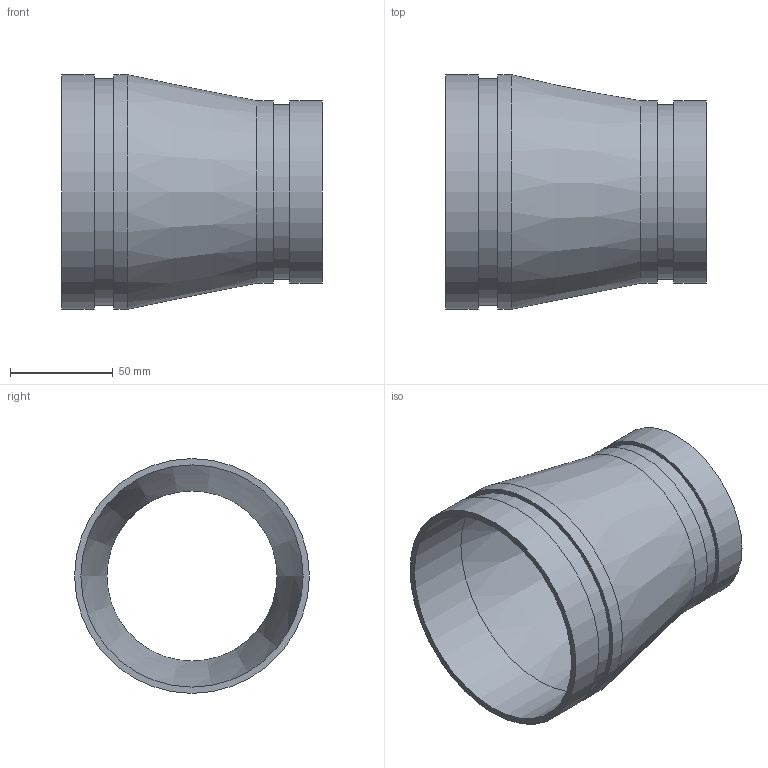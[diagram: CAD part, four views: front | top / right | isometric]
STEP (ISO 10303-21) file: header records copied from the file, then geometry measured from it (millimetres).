
FILE_DESCRIPTION(/* description */ ('VIC REDUCER CONCENTRIC No 450-SS','CAx-IF Rec.Pracs.---Representation and Presentation of Product Manufacturing Information (PMI)---4.0---2014-10-13'),/* implementation_level */ '2;1');
FILE_NAME(/* name */ 'C:\Users\kkamble\AppData\Roaming\Autodesk\ApplicationPlugins\Back Up\Victaulic_SS-OGS_Reducer Concentric_Sched 10S_No 450 SS (OGS)\Victaulic_SS-OGS_Reducer Concentric_Sched 10S_No 450 SS (OGS)_04.0x03.0 (100x80).stp',/* time_stamp */ '2020-09-08T12:33:10+05:00',/* author */ ('CORINNE GRAY'),/* organization */ ('Victaulic'),/* preprocessor_version */ 'ST-DEVELOPER v17.2',/* originating_system */ 'Autodesk Inventor 2019',/* authorisation */ '');
FILE_SCHEMA (('AP242_MANAGED_MODEL_BASED_3D_ENGINEERING_MIM_LF { 1 0 10303 442 1 1 4 }'));
Length unit declared in the file: inch
Products named in the file (1): 450 SS-04.0x03.0
Bounding box: 127 x 114.3 x 114.3 mm (x, y, z)
Volume: 108470.3 mm3; surface area: 83656.2 mm2
Topology: 1 solids, 1 shells, 16 faces, 42 edges, 32 vertices
Faces by surface type: cylinder 8, plane 6, cone 2
Full cylindrical faces by diameter (mm): 82.804 x1, 84.938 x1, 88.9 x2, 108.204 x1, 110.084 x1, 114.3 x2
Entity records: 686 total; most frequent: DIRECTION 134, CARTESIAN_POINT 108, ORIENTED_EDGE 84, AXIS2_PLACEMENT_3D 62, EDGE_CURVE 42, CIRCLE 32, VERTEX_POINT 32, EDGE_LOOP 22
